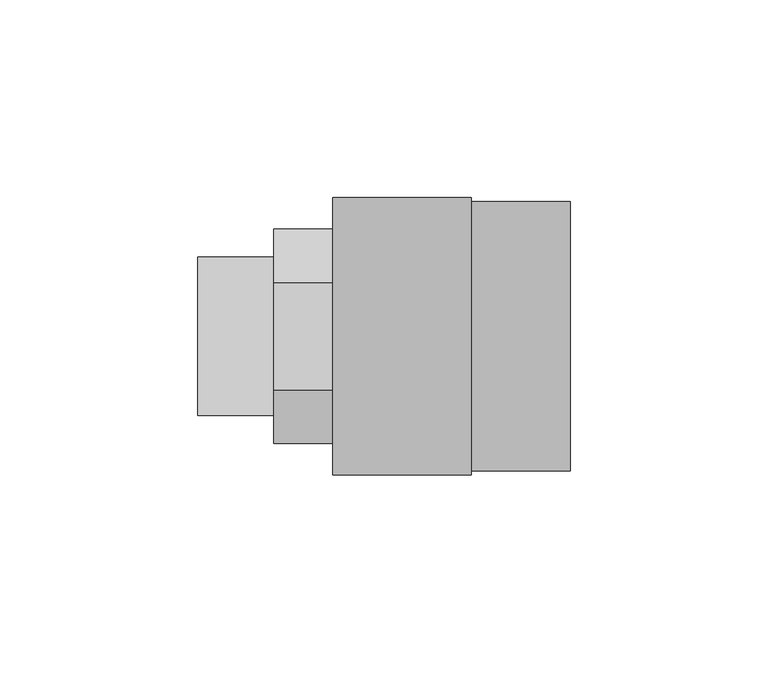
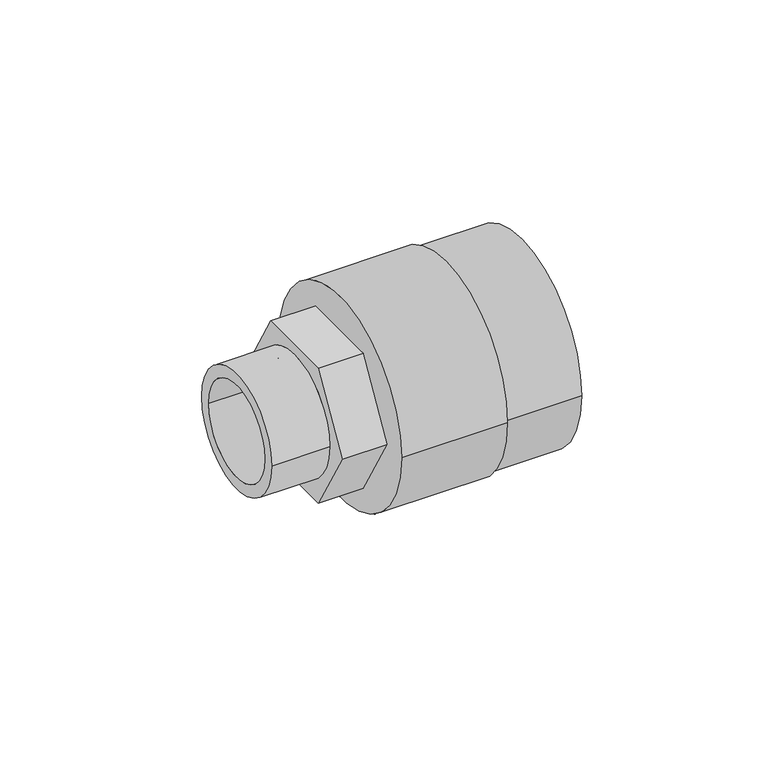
"""IFC4 building model written with IfcOpenShell, lengths in millimetres: pipe fitting geometry, NIRON RED termofusion roscado enlace rosca macho hexagonal : Estándar."""

from ifc_helpers import new_model, si_unit, point, frame, origin, origin_2d, place, context, project, spatial, polyline, circle_curve, trimmed, segment, composite_curve, outline, extrude, source, transform, mapped, element, save
from ifc_brep_helpers import plane_surface, cylinder_surface, revolved_surface, advanced_brep


def pipe_fitting_34cb12be(model_context):
    return source(origin(), model_context, "Body", "SolidModel", [
        extrude(outline(composite_curve([segment(trimmed(circle_curve(origin_2d(), 20.0), [point((-20.0, 0.0))], [point((20.0, 0.0))], False, "CARTESIAN"), True, "CONTINUOUS"), segment(trimmed(circle_curve(origin_2d(), 20.0), [point((20.0, 0.0))], [point((-20.0, 0.0))], False, "CARTESIAN"), True, "CONTINUOUS")], self_intersect=False), holes=[composite_curve([segment(trimmed(circle_curve(origin_2d(), 16.0), [point((-16.0, 0.0))], [point((16.0, 0.0))], True, "CARTESIAN"), True, "CONTINUOUS"), segment(trimmed(circle_curve(origin_2d(), 16.0), [point((16.0, 0.0))], [point((-16.0, 0.0))], True, "CARTESIAN"), True, "CONTINUOUS")], self_intersect=False)]), frame((-19.1, 0.0, 0.0), z_axis=(1.0, 0.0, 0.0), x_axis=(0.0, 1.0, 0.0)), (0.0, 0.0, 1.0), 19.1),
        advanced_brep(
        [(49.9, 35.0, 0.0), (49.9, -35.0, 0.0), (15.0, 35.0, 0.0), (15.0, -35.0, 0.0), (15.0, -20.0, 0.0), (15.0, 20.0, 0.0), (23.7, 20.0, 0.0), (23.7, -20.0, 0.0)],
        [
            (0, 1, circle_curve(frame((49.9, 0.0, 0.0), z_axis=(1.0, 0.0, 0.0), x_axis=(0.0, -1.0, 0.0)), 35.0)),
            (1, 0, circle_curve(frame((49.9, 0.0, 0.0), z_axis=(1.0, 0.0, 0.0), x_axis=(0.0, -1.0, 0.0)), 35.0)),
            (2, 3, circle_curve(frame((15.0, 0.0, 0.0), z_axis=(-1.0, 0.0, 0.0), x_axis=(0.0, -1.0, 0.0)), 35.0)),
            (3, 2, circle_curve(frame((15.0, 0.0, 0.0), z_axis=(-1.0, 0.0, 0.0), x_axis=(0.0, -1.0, 0.0)), 35.0)),
            (4, 5, circle_curve(frame((15.0, 0.0, 0.0), z_axis=(1.0, 0.0, 0.0), x_axis=(0.0, -1.0, 0.0)), 20.0)),
            (5, 4, circle_curve(frame((15.0, 0.0, 0.0), z_axis=(1.0, 0.0, 0.0), x_axis=(0.0, -1.0, 0.0)), 20.0)),
            (1, 3),
            (2, 0),
            (6, 7, circle_curve(frame((23.7, 0.0, 0.0), z_axis=(-1.0, 0.0, 0.0), x_axis=(0.0, -1.0, 0.0)), 20.0)),
            (7, 6, circle_curve(frame((23.7, 0.0, 0.0), z_axis=(-1.0, 0.0, 0.0), x_axis=(0.0, -1.0, 0.0)), 20.0)),
            (6, 5),
            (4, 7),
        ],
        [
            plane_surface(frame((49.9, -35.0, 0.0), z_axis=(1.0, 0.0, 0.0), x_axis=(0.0, 0.0, -1.0))),
            plane_surface(frame((15.0, -35.0, 0.0), z_axis=(-1.0, 0.0, 0.0), x_axis=(0.0, 0.0, 1.0))),
            cylinder_surface(frame((49.9, 0.0, 0.0), z_axis=(-1.0, 0.0, 0.0), x_axis=(0.0, -1.0, 0.0)), 35.0),
            plane_surface(frame((23.7, -20.0, 0.0), z_axis=(-1.0, 0.0, 0.0), x_axis=(0.0, 0.0, -1.0))),
            revolved_surface(polyline([(15.0, -20.0, 0.0), (23.7, -20.0, 0.0)]), (23.7, 0.0, 0.0), (-1.0, 0.0, 0.0)),
        ],
        [
            (0, [[1, 2]]),
            (1, [[3, 4], [5, 6]]),
            (2, [[-2, 7, -3, 8]]),
            (2, [[-1, -8, -4, -7]]),
            (3, [[9, 10]]),
            (4, [[-9, 11, -5, 12]]),
            (4, [[-10, -12, -6, -11]]),
        ],
    ),
        advanced_brep(
        [(15.0, 34.0, 0.0), (15.0, -34.0, 0.0), (15.0, -20.0, 0.0), (15.0, 20.0, 0.0), (74.9, 34.0, 0.0), (74.9, -34.0, 0.0), (23.7, 20.0, 0.0), (23.7, -20.0, 0.0)],
        [
            (0, 1, circle_curve(frame((15.0, 0.0, 0.0), z_axis=(-1.0, 0.0, 0.0), x_axis=(0.0, -1.0, 0.0)), 34.0)),
            (1, 0, circle_curve(frame((15.0, 0.0, 0.0), z_axis=(-1.0, 0.0, 0.0), x_axis=(0.0, -1.0, 0.0)), 34.0)),
            (2, 3, circle_curve(frame((15.0, 0.0, 0.0), z_axis=(1.0, 0.0, 0.0), x_axis=(0.0, -1.0, 0.0)), 20.0)),
            (3, 2, circle_curve(frame((15.0, 0.0, 0.0), z_axis=(1.0, 0.0, 0.0), x_axis=(0.0, -1.0, 0.0)), 20.0)),
            (4, 5, circle_curve(frame((74.9, 0.0, 0.0), z_axis=(1.0, 0.0, 0.0), x_axis=(0.0, -1.0, 0.0)), 34.0)),
            (5, 4, circle_curve(frame((74.9, 0.0, 0.0), z_axis=(1.0, 0.0, 0.0), x_axis=(0.0, -1.0, 0.0)), 34.0)),
            (0, 4),
            (5, 1),
            (6, 7, circle_curve(frame((23.7, 0.0, 0.0), z_axis=(-1.0, 0.0, 0.0), x_axis=(0.0, -1.0, 0.0)), 20.0)),
            (7, 6, circle_curve(frame((23.7, 0.0, 0.0), z_axis=(-1.0, 0.0, 0.0), x_axis=(0.0, -1.0, 0.0)), 20.0)),
            (6, 3),
            (2, 7),
        ],
        [
            plane_surface(frame((15.0, -34.0, 0.0), z_axis=(-1.0, 0.0, 0.0), x_axis=(0.0, 0.0, 1.0))),
            plane_surface(frame((74.9, -34.0, 0.0), z_axis=(1.0, 0.0, 0.0), x_axis=(0.0, 0.0, -1.0))),
            cylinder_surface(frame((74.9, 0.0, 0.0), z_axis=(-1.0, 0.0, 0.0), x_axis=(0.0, -1.0, 0.0)), 34.0),
            plane_surface(frame((23.7, -20.0, 0.0), z_axis=(-1.0, 0.0, 0.0), x_axis=(0.0, 0.0, -1.0))),
            revolved_surface(polyline([(15.0, -20.0, 0.0), (23.7, -20.0, 0.0)]), (23.7, 0.0, 0.0), (-1.0, 0.0, 0.0)),
        ],
        [
            (0, [[1, 2], [3, 4]]),
            (1, [[5, 6]]),
            (2, [[-1, 7, -6, 8]]),
            (2, [[-2, -8, -5, -7]]),
            (3, [[9, 10]]),
            (4, [[-9, 11, -3, 12]]),
            (4, [[-10, -12, -4, -11]]),
        ],
    ),
        advanced_brep(
        [(45.0, -13.5677313, -23.5), (45.0, 13.5677313, -23.5), (45.0, 27.1354627, 0.0), (45.0, 13.5677313, 23.5), (45.0, -13.5677313, 23.5), (45.0, -27.1354627, 0.0), (0.0, -13.5677313, -23.5), (0.0, -27.1354627, 0.0), (0.0, -13.5677313, 23.5), (0.0, 13.5677313, 23.5), (0.0, 27.1354627, 0.0), (0.0, 13.5677313, -23.5), (0.0, -20.0, 0.0), (0.0, 20.0, 0.0), (23.7, 20.0, 0.0), (23.7, -20.0, 0.0)],
        [
            (0, 1),
            (1, 2),
            (2, 3),
            (3, 4),
            (4, 5),
            (5, 0),
            (6, 7),
            (7, 8),
            (8, 9),
            (9, 10),
            (10, 11),
            (11, 6),
            (12, 13, circle_curve(frame((0.0, 0.0, 0.0), z_axis=(1.0, 0.0, 0.0), x_axis=(0.0, -1.0, 0.0)), 20.0)),
            (13, 12, circle_curve(frame((0.0, 0.0, 0.0), z_axis=(1.0, 0.0, 0.0), x_axis=(0.0, -1.0, 0.0)), 20.0)),
            (0, 6),
            (11, 1),
            (10, 2),
            (9, 3),
            (8, 4),
            (7, 5),
            (14, 15, circle_curve(frame((23.7, 0.0, 0.0), z_axis=(-1.0, 0.0, 0.0), x_axis=(0.0, -1.0, 0.0)), 20.0)),
            (15, 14, circle_curve(frame((23.7, 0.0, 0.0), z_axis=(-1.0, 0.0, 0.0), x_axis=(0.0, -1.0, 0.0)), 20.0)),
            (14, 13),
            (12, 15),
        ],
        [
            plane_surface(frame((45.0, 0.0, 0.0), z_axis=(1.0, 0.0, 0.0), x_axis=(0.0, 0.0, 1.0))),
            plane_surface(frame((0.0, 0.0, 0.0), z_axis=(-1.0, 0.0, 0.0), x_axis=(0.0, 0.0, 1.0))),
            plane_surface(frame((45.0, -13.5677313, -23.5), z_axis=(0.0, 0.0, -1.0), x_axis=(-1.0, 0.0, 0.0))),
            plane_surface(frame((45.0, 13.5677313, -23.5), z_axis=(0.0, 0.8660254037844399, -0.4999999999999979), x_axis=(-1.0, 0.0, 0.0))),
            plane_surface(frame((45.0, 27.1354627, 0.0), z_axis=(0.0, 0.866025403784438, 0.5000000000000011), x_axis=(-1.0, 0.0, 0.0))),
            plane_surface(frame((45.0, 13.5677313, 23.5), z_axis=(0.0, 0.0, 1.0), x_axis=(-1.0, 0.0, 0.0))),
            plane_surface(frame((45.0, -13.5677313, 23.5), z_axis=(0.0, -0.8660254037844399, 0.49999999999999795), x_axis=(-1.0, 0.0, 0.0))),
            plane_surface(frame((45.0, -27.1354627, 0.0), z_axis=(0.0, -0.8660254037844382, -0.500000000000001), x_axis=(-1.0, 0.0, 0.0))),
            plane_surface(frame((23.7, -20.0, 0.0), z_axis=(-1.0, 0.0, 0.0), x_axis=(0.0, 0.0, -1.0))),
            revolved_surface(polyline([(0.0, -20.0, 0.0), (23.7, -20.0, 0.0)]), (23.7, 0.0, 0.0), (-1.0, 0.0, 0.0)),
        ],
        [
            (0, [[1, 2, 3, 4, 5, 6]]),
            (1, [[7, 8, 9, 10, 11, 12], [13, 14]]),
            (2, [[-1, 15, -12, 16]]),
            (3, [[-2, -16, -11, 17]]),
            (4, [[-3, -17, -10, 18]]),
            (5, [[-4, -18, -9, 19]]),
            (6, [[-5, -19, -8, 20]]),
            (7, [[-6, -20, -7, -15]]),
            (8, [[21, 22]]),
            (9, [[-21, 23, -13, 24]]),
            (9, [[-22, -24, -14, -23]]),
        ],
    ),
    ])


if __name__ == "__main__":
    model = new_model("IFC4")
    model_context = context("Model", 3, world=origin())
    ifc_project = project(units=[si_unit("LENGTHUNIT", "METRE", prefix="MILLI")], contexts=[model_context])
    site = spatial("IfcSite", under=ifc_project)
    building = spatial("IfcBuilding", under=site)
    placement = place(None, origin())
    pipe_fitting_shape = pipe_fitting_34cb12be(model_context)
    element("IfcPipeFitting", 1, ObjectType="NIRON RED termofusion roscado enlace rosca macho hexagonal : Estándar", at=placement, inside=building, context=model_context, shape_type="MappedRepresentation", body=[
        mapped(pipe_fitting_shape, transform((0.0, 0.0, 0.0), x_axis=(1.0, 0.0, 0.0), y_axis=(0.0, 1.0, 0.0), z_axis=(0.0, 0.0, 1.0))),
    ])
    save(model, "model.ifc")
